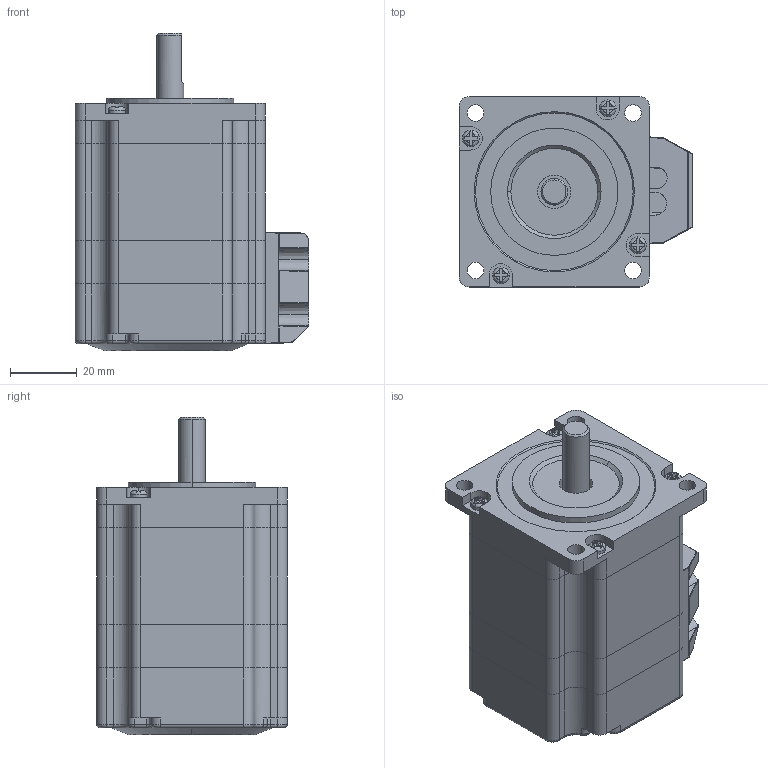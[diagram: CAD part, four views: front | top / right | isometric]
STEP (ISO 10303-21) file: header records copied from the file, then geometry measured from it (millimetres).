
FILE_DESCRIPTION (( 'STEP AP203' ), '1' );
FILE_NAME ('57J1854EC-1000-LS-01.STEP', '2022-07-06T02:35:12', ( 'USER-' ), ( 'MS' ), 'SwSTEP 2.0', 'SolidWorks 2018', '' );
FILE_SCHEMA (( 'CONFIG_CONTROL_DESIGN' ));
Length unit declared in the file: millimetre
Products named in the file (7): 57J1854EC-1000-LS-01; _______1.STEP^57J1854EC-1000-LS(2)_57J1854EC-1000-LS; 57_________1.STEP^57J1854EC-1000-LS(2)_57J1854EC-1000-LS; 57_____1.STEP^57J1854EC-1000-LS(2)_57J1854EC-1000-LS; 57_____1-0.STEP^57J1854EC-1000-LS(2)_57J1854EC-1000-LS; S-HK-14004.STEP^57J1854EC-1000-LS(2)_57J1854EC-1000-LS; 57 LS____.STEP^57J1854EC-1000-LS(2)_57J1854EC-1000-LS
Assembly tree (9 placements, depth 2):
  57J1854EC-1000-LS-01
    _______1.STEP^57J1854EC-1000-LS(2)_57J1854EC-1000-LS  x4
    57_____1.STEP^57J1854EC-1000-LS(2)_57J1854EC-1000-LS
    57_________1.STEP^57J1854EC-1000-LS(2)_57J1854EC-1000-LS
    57_____1-0.STEP^57J1854EC-1000-LS(2)_57J1854EC-1000-LS
    S-HK-14004.STEP^57J1854EC-1000-LS(2)_57J1854EC-1000-LS
    57 LS____.STEP^57J1854EC-1000-LS(2)_57J1854EC-1000-LS
Bounding box: 70 x 57 x 95 mm (x, y, z)
Volume: 188684.4 mm3; surface area: 49352.5 mm2
Topology: 9 solids, 9 shells, 538 faces, 1415 edges, 901 vertices
Faces by surface type: plane 235, cylinder 203, bspline 38, torus 28, sphere 18, cone 16
Entity records: 16216 total; most frequent: CARTESIAN_POINT 4005, ORIENTED_EDGE 2436, DIRECTION 2386, EDGE_CURVE 1218, AXIS2_PLACEMENT_3D 878, VERTEX_POINT 775, VECTOR 630, LINE 630
